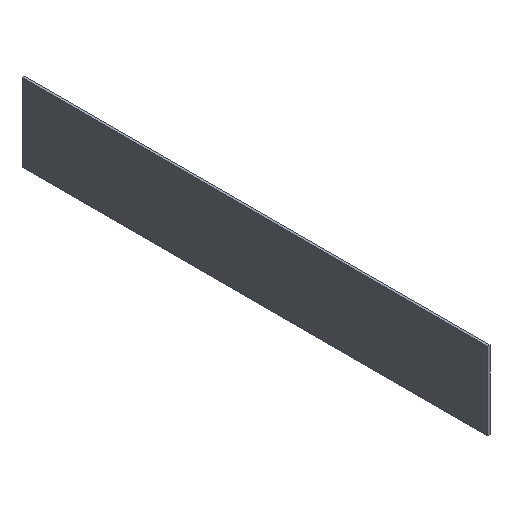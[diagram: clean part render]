
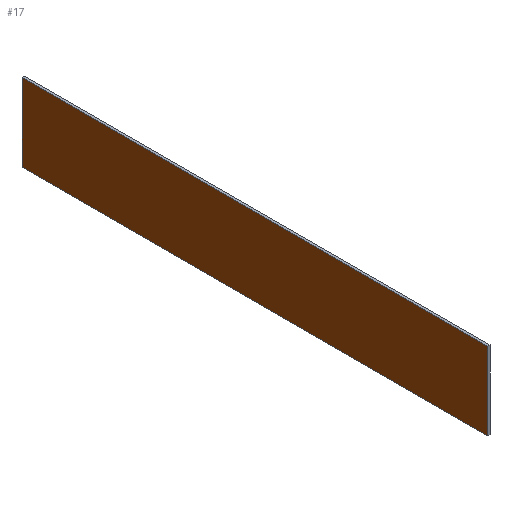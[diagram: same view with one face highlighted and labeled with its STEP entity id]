
A CAD part, isometric view. The second image highlights one B-rep face of the part: STEP entity #17.
In plain terms, the highlighted planar face has unit normal (-1, 0, 0).
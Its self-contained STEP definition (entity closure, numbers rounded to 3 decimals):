
#17 = ADVANCED_FACE('',(#18),#32,.F.);
#18 = FACE_BOUND('',#19,.F.);
#19 = EDGE_LOOP('',(#20,#55,#83,#111));
#20 = ORIENTED_EDGE('',*,*,#21,.F.);
#21 = EDGE_CURVE('',#22,#24,#26,.T.);
#22 = VERTEX_POINT('',#23);
#23 = CARTESIAN_POINT('',(-710.,-900.,1300.));
#24 = VERTEX_POINT('',#25);
#25 = CARTESIAN_POINT('',(-710.,-900.,1600.));
#26 = SURFACE_CURVE('',#27,(#31,#43),.PCURVE_S1.);
#27 = LINE('',#28,#29);
#28 = CARTESIAN_POINT('',(-710.,-900.,1300.));
#29 = VECTOR('',#30,1.);
#30 = DIRECTION('',(0.,0.,1.));
#31 = PCURVE('',#32,#37);
#32 = PLANE('',#33);
#33 = AXIS2_PLACEMENT_3D('',#34,#35,#36);
#34 = CARTESIAN_POINT('',(-710.,-900.,1300.));
#35 = DIRECTION('',(1.,0.,-0.));
#36 = DIRECTION('',(0.,0.,1.));
#37 = DEFINITIONAL_REPRESENTATION('',(#38),#42);
#38 = LINE('',#39,#40);
#39 = CARTESIAN_POINT('',(0.,0.));
#40 = VECTOR('',#41,1.);
#41 = DIRECTION('',(1.,0.));
#42 = ( GEOMETRIC_REPRESENTATION_CONTEXT(2) 
PARAMETRIC_REPRESENTATION_CONTEXT() REPRESENTATION_CONTEXT('2D SPACE',''
  ) );
#43 = PCURVE('',#44,#49);
#44 = PLANE('',#45);
#45 = AXIS2_PLACEMENT_3D('',#46,#47,#48);
#46 = CARTESIAN_POINT('',(-710.,-900.,1300.));
#47 = DIRECTION('',(-0.,1.,0.));
#48 = DIRECTION('',(0.,0.,1.));
#49 = DEFINITIONAL_REPRESENTATION('',(#50),#54);
#50 = LINE('',#51,#52);
#51 = CARTESIAN_POINT('',(0.,0.));
#52 = VECTOR('',#53,1.);
#53 = DIRECTION('',(1.,0.));
#54 = ( GEOMETRIC_REPRESENTATION_CONTEXT(2) 
PARAMETRIC_REPRESENTATION_CONTEXT() REPRESENTATION_CONTEXT('2D SPACE',''
  ) );
#55 = ORIENTED_EDGE('',*,*,#56,.T.);
#56 = EDGE_CURVE('',#22,#57,#59,.T.);
#57 = VERTEX_POINT('',#58);
#58 = CARTESIAN_POINT('',(-710.,900.,1300.));
#59 = SURFACE_CURVE('',#60,(#64,#71),.PCURVE_S1.);
#60 = LINE('',#61,#62);
#61 = CARTESIAN_POINT('',(-710.,-900.,1300.));
#62 = VECTOR('',#63,1.);
#63 = DIRECTION('',(-0.,1.,0.));
#64 = PCURVE('',#32,#65);
#65 = DEFINITIONAL_REPRESENTATION('',(#66),#70);
#66 = LINE('',#67,#68);
#67 = CARTESIAN_POINT('',(0.,0.));
#68 = VECTOR('',#69,1.);
#69 = DIRECTION('',(0.,-1.));
#70 = ( GEOMETRIC_REPRESENTATION_CONTEXT(2) 
PARAMETRIC_REPRESENTATION_CONTEXT() REPRESENTATION_CONTEXT('2D SPACE',''
  ) );
#71 = PCURVE('',#72,#77);
#72 = PLANE('',#73);
#73 = AXIS2_PLACEMENT_3D('',#74,#75,#76);
#74 = CARTESIAN_POINT('',(-710.,-900.,1300.));
#75 = DIRECTION('',(0.,0.,1.));
#76 = DIRECTION('',(1.,0.,-0.));
#77 = DEFINITIONAL_REPRESENTATION('',(#78),#82);
#78 = LINE('',#79,#80);
#79 = CARTESIAN_POINT('',(0.,0.));
#80 = VECTOR('',#81,1.);
#81 = DIRECTION('',(0.,1.));
#82 = ( GEOMETRIC_REPRESENTATION_CONTEXT(2) 
PARAMETRIC_REPRESENTATION_CONTEXT() REPRESENTATION_CONTEXT('2D SPACE',''
  ) );
#83 = ORIENTED_EDGE('',*,*,#84,.T.);
#84 = EDGE_CURVE('',#57,#85,#87,.T.);
#85 = VERTEX_POINT('',#86);
#86 = CARTESIAN_POINT('',(-710.,900.,1600.));
#87 = SURFACE_CURVE('',#88,(#92,#99),.PCURVE_S1.);
#88 = LINE('',#89,#90);
#89 = CARTESIAN_POINT('',(-710.,900.,1300.));
#90 = VECTOR('',#91,1.);
#91 = DIRECTION('',(0.,0.,1.));
#92 = PCURVE('',#32,#93);
#93 = DEFINITIONAL_REPRESENTATION('',(#94),#98);
#94 = LINE('',#95,#96);
#95 = CARTESIAN_POINT('',(0.,-1800.));
#96 = VECTOR('',#97,1.);
#97 = DIRECTION('',(1.,0.));
#98 = ( GEOMETRIC_REPRESENTATION_CONTEXT(2) 
PARAMETRIC_REPRESENTATION_CONTEXT() REPRESENTATION_CONTEXT('2D SPACE',''
  ) );
#99 = PCURVE('',#100,#105);
#100 = PLANE('',#101);
#101 = AXIS2_PLACEMENT_3D('',#102,#103,#104);
#102 = CARTESIAN_POINT('',(-710.,900.,1300.));
#103 = DIRECTION('',(-0.,1.,0.));
#104 = DIRECTION('',(0.,0.,1.));
#105 = DEFINITIONAL_REPRESENTATION('',(#106),#110);
#106 = LINE('',#107,#108);
#107 = CARTESIAN_POINT('',(0.,0.));
#108 = VECTOR('',#109,1.);
#109 = DIRECTION('',(1.,0.));
#110 = ( GEOMETRIC_REPRESENTATION_CONTEXT(2) 
PARAMETRIC_REPRESENTATION_CONTEXT() REPRESENTATION_CONTEXT('2D SPACE',''
  ) );
#111 = ORIENTED_EDGE('',*,*,#112,.F.);
#112 = EDGE_CURVE('',#24,#85,#113,.T.);
#113 = SURFACE_CURVE('',#114,(#118,#125),.PCURVE_S1.);
#114 = LINE('',#115,#116);
#115 = CARTESIAN_POINT('',(-710.,-900.,1600.));
#116 = VECTOR('',#117,1.);
#117 = DIRECTION('',(-0.,1.,0.));
#118 = PCURVE('',#32,#119);
#119 = DEFINITIONAL_REPRESENTATION('',(#120),#124);
#120 = LINE('',#121,#122);
#121 = CARTESIAN_POINT('',(300.,0.));
#122 = VECTOR('',#123,1.);
#123 = DIRECTION('',(0.,-1.));
#124 = ( GEOMETRIC_REPRESENTATION_CONTEXT(2) 
PARAMETRIC_REPRESENTATION_CONTEXT() REPRESENTATION_CONTEXT('2D SPACE',''
  ) );
#125 = PCURVE('',#126,#131);
#126 = PLANE('',#127);
#127 = AXIS2_PLACEMENT_3D('',#128,#129,#130);
#128 = CARTESIAN_POINT('',(-710.,-900.,1600.));
#129 = DIRECTION('',(0.,0.,1.));
#130 = DIRECTION('',(1.,0.,-0.));
#131 = DEFINITIONAL_REPRESENTATION('',(#132),#136);
#132 = LINE('',#133,#134);
#133 = CARTESIAN_POINT('',(0.,0.));
#134 = VECTOR('',#135,1.);
#135 = DIRECTION('',(0.,1.));
#136 = ( GEOMETRIC_REPRESENTATION_CONTEXT(2) 
PARAMETRIC_REPRESENTATION_CONTEXT() REPRESENTATION_CONTEXT('2D SPACE',''
  ) );
